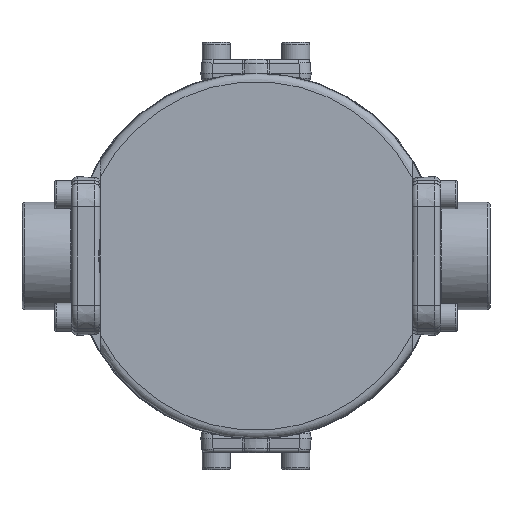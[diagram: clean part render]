
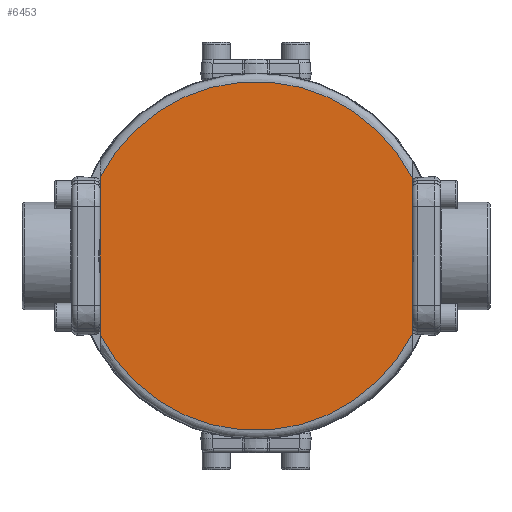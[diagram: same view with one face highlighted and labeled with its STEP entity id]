
A CAD part, front view. The second image highlights one B-rep face of the part: STEP entity #6453.
In plain terms, the highlighted planar face has unit normal (0, -1, 0).
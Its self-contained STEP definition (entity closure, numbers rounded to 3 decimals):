
#464=PLANE('',#7111);
#737=LINE('',#10609,#1047);
#760=LINE('',#10745,#1070);
#1047=VECTOR('',#7955,10.);
#1070=VECTOR('',#8050,10.);
#1509=FACE_OUTER_BOUND('',#1941,.T.);
#1941=EDGE_LOOP('',(#4737,#4738,#4739,#4740));
#2427=CIRCLE('',#7110,61.5);
#2428=CIRCLE('',#7112,61.5);
#2839=VERTEX_POINT('',#10592);
#2841=VERTEX_POINT('',#10608);
#2872=VERTEX_POINT('',#10709);
#2876=VERTEX_POINT('',#10730);
#3477=EDGE_CURVE('',#2841,#2839,#737,.T.);
#3525=EDGE_CURVE('',#2872,#2876,#760,.T.);
#3616=EDGE_CURVE('',#2872,#2839,#2427,.T.);
#3617=EDGE_CURVE('',#2841,#2876,#2428,.T.);
#4737=ORIENTED_EDGE('',*,*,#3616,.F.);
#4738=ORIENTED_EDGE('',*,*,#3525,.T.);
#4739=ORIENTED_EDGE('',*,*,#3617,.F.);
#4740=ORIENTED_EDGE('',*,*,#3477,.T.);
#6453=ADVANCED_FACE('',(#1509),#464,.T.);
#7110=AXIS2_PLACEMENT_3D('',#10922,#8264,#8265);
#7111=AXIS2_PLACEMENT_3D('',#10923,#8266,#8267);
#7112=AXIS2_PLACEMENT_3D('',#10924,#8268,#8269);
#7955=DIRECTION('',(0.,0.,-1.));
#8050=DIRECTION('',(0.,0.,1.));
#8264=DIRECTION('center_axis',(0.,1.,0.));
#8265=DIRECTION('ref_axis',(0.,0.,
-1.));
#8266=DIRECTION('center_axis',(0.,-1.,0.));
#8267=DIRECTION('ref_axis',(0.,0.,-1.));
#8268=DIRECTION('center_axis',(0.,1.,0.));
#8269=DIRECTION('ref_axis',(0.,0.,
1.));
#10592=CARTESIAN_POINT('',(-55.,0.,-27.518));
#10608=CARTESIAN_POINT('',(-55.,0.,27.518));
#10609=CARTESIAN_POINT('',(-55.,0.,0.));
#10709=CARTESIAN_POINT('',(55.,0.,-27.518));
#10730=CARTESIAN_POINT('',(55.,0.,27.518));
#10745=CARTESIAN_POINT('',(55.,0.,0.));
#10922=CARTESIAN_POINT('Origin',(0.,0.,0.));
#10923=CARTESIAN_POINT('Origin',(0.,0.,0.));
#10924=CARTESIAN_POINT('Origin',(0.,0.,0.));
